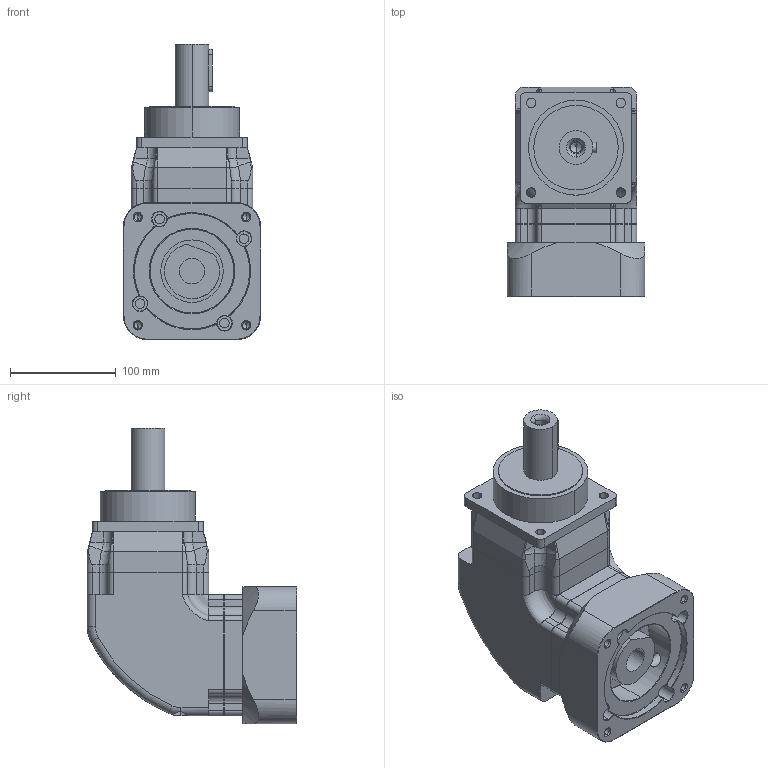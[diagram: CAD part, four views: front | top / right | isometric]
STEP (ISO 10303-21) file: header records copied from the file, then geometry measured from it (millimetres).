
FILE_DESCRIPTION (( 'STEP AP214' ), '1' );
FILE_NAME ('TRF100-1ST.STEP', '2025-05-05T05:26:59', ( 'Administrator' ), ( '' ), 'SwSTEP 2.0', 'SolidWorks 2023', '' );
FILE_SCHEMA (( 'AUTOMOTIVE_DESIGN' ));
Length unit declared in the file: millimetre
Products named in the file (5): TRB115-HS; TUF100-X-RG_K; TRF100-1ST; Q04014X0012_Q04014X0012; TRB115-X-IN-ST_24
Assembly tree (4 placements, depth 2):
  TRF100-1ST
    TUF100-X-RG_K
    TRB115-HS
    TRB115-X-IN-ST_24
    Q04014X0012_Q04014X0012
Bounding box: 130 x 198.5 x 280 mm (x, y, z)
Volume: 3086394.3 mm3; surface area: 264075.9 mm2
Topology: 4 solids, 5 shells, 429 faces, 1079 edges, 665 vertices
Faces by surface type: cylinder 167, plane 140, cone 79, bspline 26, torus 17
Entity records: 15242 total; most frequent: CARTESIAN_POINT 5003, ORIENTED_EDGE 2130, DIRECTION 2094, EDGE_CURVE 1065, AXIS2_PLACEMENT_3D 796, VERTEX_POINT 665, LINE 502, VECTOR 502
